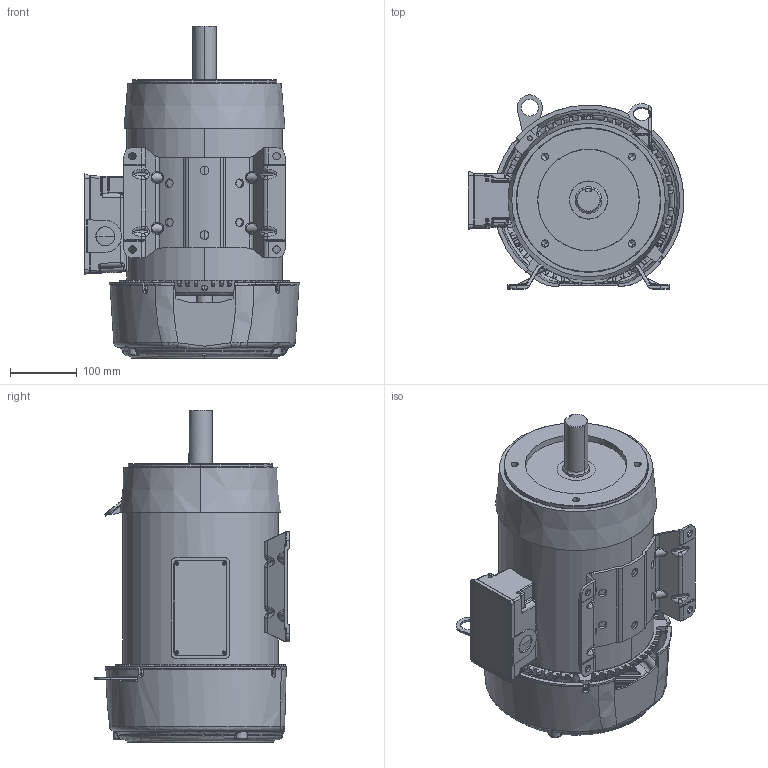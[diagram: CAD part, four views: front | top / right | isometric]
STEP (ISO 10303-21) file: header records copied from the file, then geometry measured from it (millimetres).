
FILE_DESCRIPTION((''),'2;1');
FILE_NAME('210_SSTL_ASM_ASM','2015-06-17T',('NMC2342'),('Nidec Motor Corporation'),'PRO/ENGINEER BY PARAMETRIC TECHNOLOGY CORPORATION, 2013150','PRO/ENGINEER BY PARAMETRIC TECHNOLOGY CORPORATION, 2013150','');
FILE_SCHEMA(('CONFIG_CONTROL_DESIGN'));
Length unit declared in the file: inch
Products named in the file (14): 0496276_AF0; 0496262; 1001103; 0345787; 0496264; 0496266; 0496267; 0904746; 0951821; 0362111; PRT0005; 0095803; 0391816; 210_SSTL_ASM_ASM
Assembly tree (13 placements, depth 2):
  210_SSTL_ASM_ASM
    0496276_AF0
    0496262
    1001103
    0345787
    0496264
    0496266
    0496267
    0904746
    0951821
    0362111
    PRT0005
    0095803
    0391816
Bounding box: 323.16 x 290.73 x 497.26 mm (x, y, z)
Volume: 3419290.2 mm3; surface area: 1239766.7 mm2
Topology: 15 solids, 15 shells, 2993 faces, 7516 edges, 4522 vertices
Faces by surface type: bspline 1031, cylinder 716, plane 671, cone 219, torus 197, extrusion 94, sphere 65
Entity records: 138642 total; most frequent: CARTESIAN_POINT 75359, ORIENTED_EDGE 14966, DIRECTION 10512, EDGE_CURVE 7483, VERTEX_POINT 4522, AXIS2_PLACEMENT_3D 4103, EDGE_LOOP 3195, B_SPLINE_CURVE_WITH_KNOTS 3157
